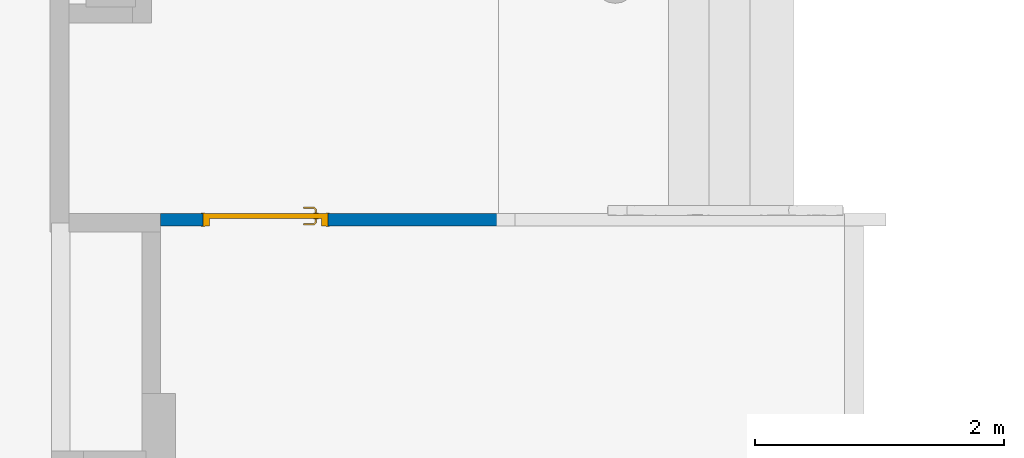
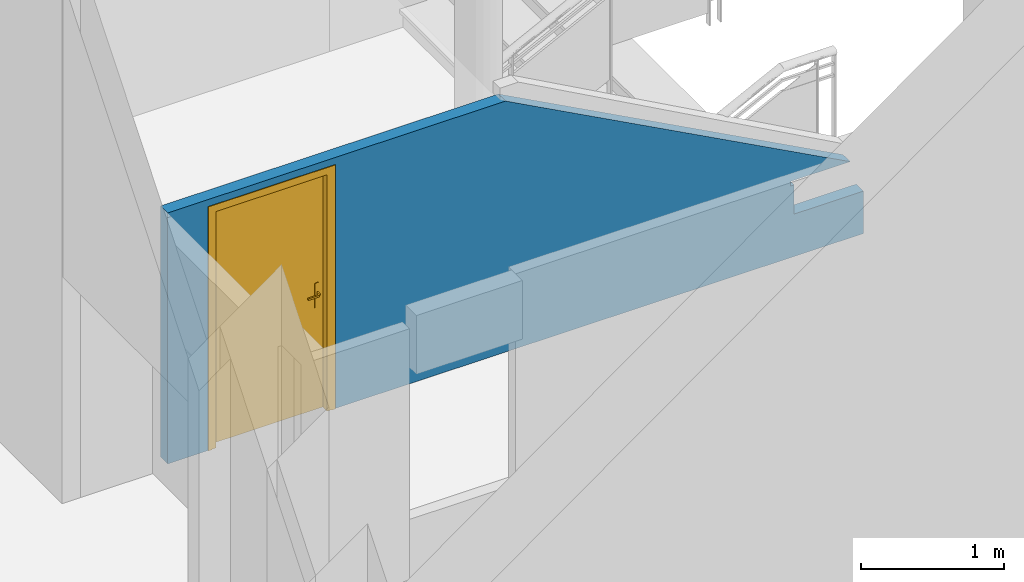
# One storey, part 10 of 39: 1 door, 1 wall, 1 opening.
"""IFC4 building model written with IfcOpenShell, lengths in metres."""

from ifc_helpers import new_model, entity, si_unit, converted_unit, derived_unit, direction, frame, origin, place, context, subcontext, project, spatial, indexed_curve, outline, extrude, polygons, source, transform, mapped, material, material_list, layer, layer_set, constituent, constituent_set, type_object, type_shapes, element, fill, save


model = new_model("IFC4")

# Units and contexts
model_context = context("Model", 3, precision=1e-05, world=origin(), true_north=direction((6.12303176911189e-17, 1.0)))
body_context = subcontext(model_context, "Body", "Model", "MODEL_VIEW")
ifc_project = project(units=[si_unit("LENGTHUNIT", "METRE"), si_unit("AREAUNIT", "SQUARE_METRE"), si_unit("VOLUMEUNIT", "CUBIC_METRE"), converted_unit("PLANEANGLEUNIT", "DEGREE", entity("IfcRatioMeasure", 0.0174532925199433), si_unit("PLANEANGLEUNIT", "RADIAN"), dimensions=[0, 0, 0, 0, 0, 0, 0]), si_unit("MASSUNIT", "GRAM", prefix="KILO"), derived_unit("MASSDENSITYUNIT", [(si_unit("MASSUNIT", "GRAM", prefix="KILO"), 1), (si_unit("LENGTHUNIT", "METRE"), -3)]), derived_unit("MOMENTOFINERTIAUNIT", [(si_unit("LENGTHUNIT", "METRE"), 4)]), si_unit("TIMEUNIT", "SECOND"), si_unit("FREQUENCYUNIT", "HERTZ"), si_unit("THERMODYNAMICTEMPERATUREUNIT", "DEGREE_CELSIUS"), derived_unit("THERMALTRANSMITTANCEUNIT", [(si_unit("MASSUNIT", "GRAM", prefix="KILO"), 1), (si_unit("THERMODYNAMICTEMPERATUREUNIT", "KELVIN"), -1), (si_unit("TIMEUNIT", "SECOND"), -3)]), derived_unit("VOLUMETRICFLOWRATEUNIT", [(si_unit("LENGTHUNIT", "METRE"), 3), (si_unit("TIMEUNIT", "SECOND"), -1)]), si_unit("ELECTRICCURRENTUNIT", "AMPERE"), si_unit("ELECTRICVOLTAGEUNIT", "VOLT"), si_unit("POWERUNIT", "WATT"), si_unit("FORCEUNIT", "NEWTON", prefix="KILO"), si_unit("ILLUMINANCEUNIT", "LUX"), si_unit("LUMINOUSFLUXUNIT", "LUMEN"), si_unit("LUMINOUSINTENSITYUNIT", "CANDELA"), derived_unit("USERDEFINED", [(si_unit("MASSUNIT", "GRAM", prefix="KILO"), -1), (si_unit("LENGTHUNIT", "METRE"), -2), (si_unit("TIMEUNIT", "SECOND"), 3), (si_unit("LUMINOUSFLUXUNIT", "LUMEN"), 1)]), derived_unit("LINEARVELOCITYUNIT", [(si_unit("LENGTHUNIT", "METRE"), 1), (si_unit("TIMEUNIT", "SECOND"), -1)]), si_unit("PRESSUREUNIT", "PASCAL"), derived_unit("USERDEFINED", [(si_unit("LENGTHUNIT", "METRE"), -2), (si_unit("MASSUNIT", "GRAM", prefix="KILO"), 1), (si_unit("TIMEUNIT", "SECOND"), -2)]), derived_unit("LINEARFORCEUNIT", [(si_unit("MASSUNIT", "GRAM", prefix="KILO"), 1), (si_unit("LENGTHUNIT", "METRE"), 1), (si_unit("TIMEUNIT", "SECOND"), -2), (si_unit("LENGTHUNIT", "METRE"), -1)]), derived_unit("PLANARFORCEUNIT", [(si_unit("MASSUNIT", "GRAM", prefix="KILO"), 1), (si_unit("LENGTHUNIT", "METRE"), 1), (si_unit("TIMEUNIT", "SECOND"), -2), (si_unit("LENGTHUNIT", "METRE"), -2)])], contexts=[model_context])

# Site, building, storey
site_placement = place(None, origin())
site = spatial("IfcSite", under=ifc_project, at=site_placement, Name="Default", CompositionType="ELEMENT")
building_placement = place(site_placement, origin())
building = spatial("IfcBuilding", under=site, at=building_placement, Name="HOTEL CONSULAIRE BOULOGNE SUR MER", CompositionType="ELEMENT")
storey_placement = place(building_placement, frame((0.0, 0.0, -5.02343668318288)))
storey = spatial("IfcBuildingStorey", under=building, at=storey_placement, Name="SS3", CompositionType="ELEMENT", Elevation=-5.02343668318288)

# Wall, opening, door
ifc_material_1 = material(Name="Mur par défaut", Category="Divers")
ifc_layer = layer(ifc_material_1, 0.1, Name="Mur par défaut", Category="Divers")
ifc_layer_set = layer_set([ifc_layer], Name="Mur de base:Générique - Int. 100 mm")
wall_type = type_object("IfcWallType", Name="Mur de base:Générique - Int. 100 mm", PredefinedType="NOTDEFINED", material=ifc_layer_set)
wall_placement = place(storey_placement, frame((-4.87627841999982, -25.9207560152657, 0.0)))
wall = element("IfcWall", 1, at=wall_placement, inside=storey, type_object=wall_type, material=ifc_layer_set, Name="Mur de base:Générique - Int. 100 mm", ObjectType="Mur de base:Générique - Int. 100 mm", PredefinedType="NOTDEFINED", context=body_context, shape_type="Tessellation", body=[
    polygons([(5.63699999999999, -0.049999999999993, 0.0), (5.48699999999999, -0.0499999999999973, 0.0), (1.341, -0.0499999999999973, 0.0), (1.341, 0.0500000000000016, 0.0), (5.63699999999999, 0.050000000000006, 0.0), (2.73781474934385, -0.0499999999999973, 2.14999999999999), (2.53744928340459e-16, -0.0499999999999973, 2.14999999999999), (2.53744928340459e-16, -0.0499999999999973, 0.0), (0.340999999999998, -0.049999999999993, 0.0), (0.340999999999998, -0.049999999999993, 2.075), (1.341, -0.0499999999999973, 2.075), (5.63699999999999, -0.049999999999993, 0.363405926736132), (5.48699999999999, -0.0499999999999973, 0.363405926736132), (5.075, -0.0499999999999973, 0.363405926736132), (5.075, -0.0499999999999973, 0.613405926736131), (5.045, -0.0499999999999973, 0.613405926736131), (5.045, -0.0499999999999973, 0.653405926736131), (5.48699999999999, -0.0499999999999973, 0.653405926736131), (5.52988705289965, -0.0499999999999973, 0.653405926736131), (4.79399417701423e-16, 0.0500000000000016, 2.14999999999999), (2.73781474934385, 0.0500000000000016, 2.14999999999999), (5.52988705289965, 0.0500000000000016, 0.653405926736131), (5.045, 0.0500000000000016, 0.653405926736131), (5.045, 0.0500000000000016, 0.613405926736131), (5.075, 0.0500000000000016, 0.613405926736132), (5.075, 0.0500000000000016, 0.363405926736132), (5.63699999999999, 0.050000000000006, 0.363405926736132), (1.341, 0.0500000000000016, 2.075), (0.340999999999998, 0.050000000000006, 2.075), (0.340999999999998, 0.050000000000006, 0.0), (1.56226654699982e-15, 0.0500000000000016, 0.0)], [[[2, 3, 4, 5, 1]], [[11, 10, 29, 28]], [[9, 8, 31, 30]], [[23, 22, 19, 18, 17]], [[10, 11, 3, 2, 1, 12, 13, 14, 15, 16, 17, 18, 19, 6, 7, 8, 9]], [[5, 4, 28, 29, 30, 31, 20, 21, 22, 23, 24, 25, 26, 27]], [[20, 31, 8, 7]], [[11, 28, 4, 3]], [[10, 9, 30, 29]], [[12, 1, 5, 27]], [[25, 15, 14, 26]], [[17, 16, 24, 23]], [[7, 6, 21, 20]], [[13, 12, 27, 26, 14]], [[16, 15, 25, 24]], [[6, 19, 22, 21]]], closed=True),
])
opening_placement = place(wall_placement, frame((0.340999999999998, -0.0500000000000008, 0.0)))
opening = element("IfcOpeningElement", 2, at=opening_placement, cuts=wall, Name="Int. Simple:PP0.93x2.04:1", ObjectType="Opening", PredefinedType="OPENING", context=body_context, shape_type="SweptSolid", body=[
    extrude(outline(indexed_curve([(0.0, 0.0), (2.075, 0.0), (2.075, 1.0), (0.0, 1.0), (0.0, 0.0)], self_intersect=False)), frame((0.0, 0.0, 0.0), z_axis=(0.0, 1.0, 0.0), x_axis=(0.0, 0.0, 1.0)), (0.0, 0.0, 1.0), 0.1),
])
ifc_material_2 = material(Name="Finition Peinture - Blanc satiné", Category="Peinture")
ifc_constituent_1 = constituent(ifc_material_2, Name="Finition Peinture - Blanc satiné", Category="Matériaux")
ifc_material_3 = material(Name="Bois - Panneau de porte", Category="Bois")
ifc_constituent_2 = constituent(ifc_material_3, Name="Bois - Panneau de porte", Category="Matériaux")
ifc_material_4 = material(Name="Bois - Cadre de porte", Category="Bois")
ifc_constituent_3 = constituent(ifc_material_4, Name="Bois - Cadre de porte", Category="Matériaux")
ifc_constituent_set = constituent_set(constituents=[ifc_constituent_1, ifc_constituent_2, ifc_constituent_3], Name="MaterialConstituentSet")
ifc_material_list = material_list([ifc_material_4, ifc_material_2, ifc_material_3, ifc_material_4])
door_type = type_object("IfcDoorType", Name="Int. Simple:PP0.93x2.04", OperationType="NOTDEFINED", PredefinedType="DOOR", material=ifc_material_list)
shared_shape = source(origin(), body_context, "Body", "Tessellation", [
    polygons([(0.075000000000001, -0.00500000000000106, 0.870000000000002), (0.0846472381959, -0.00500000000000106, 0.866003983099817), (0.0950000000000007, -0.00500000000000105, 0.86464101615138), (0.105352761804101, -0.00500000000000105, 0.866003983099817), (0.115, -0.00500000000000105, 0.870000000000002), (0.114999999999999, -0.00500000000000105, 1.08), (0.1053527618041, -0.00500000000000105, 1.08399601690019), (0.0949999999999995, -0.00500000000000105, 1.08535898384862), (0.0846472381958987, -0.00500000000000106, 1.08399601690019), (0.0749999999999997, -0.00500000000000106, 1.08), (0.0749999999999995, -1.06594733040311e-15, 0.870000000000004), (0.0749999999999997, -1.06594733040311e-15, 1.08), (0.0846472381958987, -1.06594733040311e-15, 1.08399601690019), (0.0949999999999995, -1.05748743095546e-15, 1.08535898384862), (0.1053527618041, -1.05748743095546e-15, 1.08399601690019), (0.114999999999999, -1.04902753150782e-15, 1.08), (0.115, -1.04902753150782e-15, 0.870000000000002), (0.105352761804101, -1.05748743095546e-15, 0.866003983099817), (0.0950000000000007, -1.05748743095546e-15, 0.86464101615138), (0.0846472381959, -1.06594733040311e-15, 0.866003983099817)], [[[4, 5, 6, 7, 8, 9, 10, 1, 2, 3]], [[15, 16, 17, 18, 19, 20, 11, 12, 13, 14]], [[11, 20, 2, 1]], [[2, 20, 19, 3]], [[19, 18, 4, 3]], [[18, 17, 5, 4]], [[6, 5, 17, 16]], [[16, 15, 7, 6]], [[7, 15, 14, 8]], [[14, 13, 9, 8]], [[13, 12, 10, 9]], [[1, 10, 12, 11]]], closed=True),
    polygons([(0.114999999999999, 0.0399999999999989, 1.08), (0.1053527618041, 0.0399999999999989, 1.08399601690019), (0.0949999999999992, 0.0399999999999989, 1.08535898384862), (0.0846472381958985, 0.0399999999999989, 1.08399601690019), (0.0749999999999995, 0.0399999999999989, 1.08), (0.075000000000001, 0.0399999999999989, 0.870000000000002), (0.0846472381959, 0.0399999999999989, 0.866003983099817), (0.0950000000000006, 0.0399999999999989, 0.86464101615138), (0.105352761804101, 0.0399999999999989, 0.866003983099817), (0.115, 0.0399999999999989, 0.870000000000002), (0.114999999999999, 0.0449999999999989, 1.08), (0.115, 0.0449999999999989, 0.870000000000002), (0.105352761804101, 0.0449999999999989, 0.866003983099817), (0.0950000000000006, 0.0449999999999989, 0.86464101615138), (0.0846472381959, 0.0449999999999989, 0.866003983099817), (0.0749999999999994, 0.0449999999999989, 0.870000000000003), (0.0749999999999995, 0.0449999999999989, 1.08), (0.0846472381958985, 0.0449999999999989, 1.08399601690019), (0.0949999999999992, 0.0449999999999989, 1.08535898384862), (0.1053527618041, 0.0449999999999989, 1.08399601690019)], [[[9, 10, 1, 2, 3, 4, 5, 6, 7, 8]], [[20, 11, 12, 13, 14, 15, 16, 17, 18, 19]], [[11, 20, 2, 1]], [[2, 20, 19, 3]], [[19, 18, 4, 3]], [[18, 17, 5, 4]], [[6, 5, 17, 16]], [[16, 15, 7, 6]], [[7, 15, 14, 8]], [[14, 13, 9, 8]], [[13, 12, 10, 9]], [[1, 10, 12, 11]]], closed=True),
    polygons([(0.0889999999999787, -0.00500000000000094, 1.007), (0.0929747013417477, -0.00500000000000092, 1.00778044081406), (0.097025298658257, -0.0050000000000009, 1.00778044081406), (0.101000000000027, -0.00500000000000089, 1.00699999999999), (0.101000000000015, -0.00500000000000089, 0.993000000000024), (0.0970252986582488, -0.0050000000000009, 0.992219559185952), (0.0929747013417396, -0.00500000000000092, 0.99221955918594), (0.0889999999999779, -0.00500000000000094, 0.992999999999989), (0.0889999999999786, -0.0326509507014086, 1.007), (0.0929747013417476, -0.0310045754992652, 1.00778044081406), (0.0970252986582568, -0.0293267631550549, 1.00778044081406), (0.101000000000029, -0.0276803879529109, 1.007), (0.101000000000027, -0.0276803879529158, 0.993000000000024), (0.0970252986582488, -0.0293267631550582, 0.992219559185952), (0.0929747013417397, -0.0310045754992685, 0.99221955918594), (0.0889999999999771, -0.0326509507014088, 0.992999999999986), (0.107377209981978, -0.0510281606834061, 1.007), (0.109023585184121, -0.0470534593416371, 1.00778044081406), (0.110701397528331, -0.0430028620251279, 1.00778044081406), (0.112347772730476, -0.0390281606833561, 1.007), (0.112347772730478, -0.0390281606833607, 0.993000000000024), (0.110701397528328, -0.0430028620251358, 0.992219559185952), (0.109023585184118, -0.0470534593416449, 0.99221955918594), (0.107377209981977, -0.0510281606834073, 0.992999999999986), (0.195018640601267, -0.0510281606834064, 1.00699999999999), (0.195018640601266, -0.051028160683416, 0.992999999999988), (0.195018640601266, -0.0470534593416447, 0.99221955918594), (0.195018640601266, -0.0430028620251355, 0.992219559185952), (0.195018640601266, -0.0390281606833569, 0.993000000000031), (0.195018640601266, -0.0390281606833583, 1.007), (0.195018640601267, -0.0430028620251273, 1.00778044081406), (0.195018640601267, -0.0470534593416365, 1.00778044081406), (0.147307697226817, -0.0510281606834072, 1.007), (0.152860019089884, -0.045028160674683, 1.0078786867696), (0.15368320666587, -0.039028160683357, 1.007), (0.147307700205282, -0.0510281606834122, 0.992999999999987), (0.152860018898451, -0.0450281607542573, 0.992121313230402), (0.153683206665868, -0.0390281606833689, 0.993000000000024)], [[[2, 3, 4, 5, 6, 7, 8, 1]], [[21, 20, 35, 30, 29, 38]], [[9, 10, 2, 1]], [[10, 18, 19, 11, 3, 2]], [[11, 12, 4, 3]], [[5, 4, 12, 13]], [[26, 27, 28, 29, 30, 31, 32, 25]], [[13, 14, 6, 5]], [[14, 22, 23, 15, 7, 6]], [[15, 16, 8, 7]], [[1, 8, 16, 9]], [[17, 18, 10, 9]], [[19, 20, 12, 11]], [[13, 12, 20, 21]], [[21, 22, 14, 13]], [[23, 24, 16, 15]], [[9, 16, 24, 17]], [[33, 32, 34]], [[25, 32, 33]], [[18, 17, 33]], [[34, 35, 19]], [[20, 19, 35]], [[35, 31, 30]], [[32, 31, 34]], [[31, 35, 34]], [[18, 33, 34]], [[18, 34, 19]], [[38, 28, 37]], [[36, 37, 27]], [[21, 38, 22]], [[38, 29, 28]], [[26, 36, 27]], [[24, 23, 36]], [[36, 23, 37]], [[23, 22, 37]], [[22, 38, 37]], [[27, 37, 28]], [[17, 24, 36, 26, 25, 33]]], closed=True),
    polygons([(0.10100000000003, 0.0449999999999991, 0.993000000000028), (0.101000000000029, 0.0449999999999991, 1.007), (0.0970252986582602, 0.0449999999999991, 1.00778044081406), (0.092974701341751, 0.0449999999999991, 1.00778044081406), (0.0889999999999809, 0.044999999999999, 1.007), (0.0889999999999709, 0.044999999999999, 0.992999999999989), (0.0929747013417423, 0.0449999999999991, 0.99221955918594), (0.0970252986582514, 0.0449999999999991, 0.992219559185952), (0.10100000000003, 0.067485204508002, 0.993000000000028), (0.10100000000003, 0.0674852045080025, 1.007), (0.0970252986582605, 0.0691315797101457, 1.00778044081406), (0.0929747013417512, 0.070809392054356, 1.00778044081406), (0.088999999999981, 0.0724557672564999, 1.007), (0.0889999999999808, 0.072455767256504, 0.992999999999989), (0.092974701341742, 0.0708093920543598, 0.99221955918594), (0.0970252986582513, 0.0691315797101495, 0.992219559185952), (0.112485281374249, 0.0789704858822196, 0.993000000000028), (0.112485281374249, 0.0789704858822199, 1.007), (0.110838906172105, 0.0829451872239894, 1.00778044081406), (0.109161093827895, 0.0869957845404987, 1.00778044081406), (0.107514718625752, 0.0909704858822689, 1.007), (0.107514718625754, 0.090970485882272, 0.992999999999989), (0.109161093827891, 0.0869957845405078, 0.99221955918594), (0.110838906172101, 0.0829451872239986, 0.992219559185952), (0.195045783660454, 0.0789704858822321, 0.993000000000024), (0.195045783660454, 0.0829451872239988, 0.992219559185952), (0.195045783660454, 0.086995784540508, 0.99221955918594), (0.195045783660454, 0.0909704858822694, 0.992999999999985), (0.195045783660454, 0.0909704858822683, 1.007), (0.195045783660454, 0.0869957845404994, 1.00778044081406), (0.195045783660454, 0.0829451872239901, 1.00778044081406), (0.195045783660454, 0.0789704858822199, 1.007), (0.147445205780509, 0.0909704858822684, 1.007), (0.152942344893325, 0.0849704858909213, 1.0078786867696), (0.153765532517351, 0.0789704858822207, 1.007), (0.147445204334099, 0.0909704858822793, 0.992999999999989), (0.152942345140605, 0.0849704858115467, 0.992121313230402), (0.153765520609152, 0.0789704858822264, 0.993000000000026)], [[[4, 5, 6, 7, 8, 1, 2, 3]], [[18, 17, 38, 25, 32, 35]], [[2, 1, 9, 10]], [[25, 26, 27, 28, 29, 30, 31, 32]], [[10, 11, 3, 2]], [[11, 19, 20, 12, 4, 3]], [[12, 13, 5, 4]], [[6, 5, 13, 14]], [[14, 15, 7, 6]], [[15, 23, 24, 16, 8, 7]], [[16, 9, 1, 8]], [[10, 9, 17, 18]], [[18, 19, 11, 10]], [[20, 21, 13, 12]], [[14, 13, 21, 22]], [[22, 23, 15, 14]], [[24, 17, 9, 16]], [[35, 31, 34]], [[33, 34, 30]], [[18, 35, 19]], [[35, 32, 31]], [[29, 33, 30]], [[21, 20, 33]], [[33, 20, 34]], [[20, 19, 34]], [[19, 35, 34]], [[30, 34, 31]], [[21, 33, 29, 28, 36, 22]], [[36, 27, 37]], [[28, 27, 36]], [[23, 22, 36]], [[37, 38, 24]], [[17, 24, 38]], [[38, 26, 25]], [[27, 26, 37]], [[26, 38, 37]], [[23, 36, 37]], [[23, 37, 24]]], closed=True),
    polygons([(0.0349999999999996, 0.04, 2.04), (0.965, 0.04, 2.04), (0.965, 0.04, 0.0), (0.0349999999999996, 0.04, 0.0), (0.0349999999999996, 3.38395977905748e-17, 2.04), (0.0349999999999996, 3.38395977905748e-17, 0.0), (0.965, 3.38395977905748e-17, 0.0), (0.965, 3.38395977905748e-17, 2.04)], [[[4, 1, 2, 3]], [[7, 8, 5, 6]], [[2, 1, 5, 8]], [[3, 2, 8, 7]], [[4, 3, 7, 6]], [[1, 4, 6, 5]]], closed=True),
    polygons([(-1.53631773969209e-14, 0.0, 0.0), (-1.53631773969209e-14, 0.100000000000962, 0.0), (0.0499999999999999, 0.100000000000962, 0.0), (0.0499999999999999, 0.040000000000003, 0.0), (0.0349999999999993, 0.040000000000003, 0.0), (0.0349999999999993, 0.0, 0.0), (-1.51601398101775e-14, 0.0, 2.07500000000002), (-1.51601398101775e-14, 0.100000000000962, 2.07500000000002), (1.00000000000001, 0.100000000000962, 2.07500000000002), (1.00000000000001, 0.100000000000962, 3.88816484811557e-25), (0.95, 0.100000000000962, 3.59657255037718e-24), (0.95, 0.100000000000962, 2.025), (0.05, 0.100000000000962, 2.025), (0.05, 0.040000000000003, 2.025), (0.95, 0.040000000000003, 2.025), (0.95, 0.040000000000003, 2.24110802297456e-24), (0.965, 0.040000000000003, -4.78103047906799e-25), (0.965, 0.040000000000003, 2.04), (0.0349999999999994, 0.040000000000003, 2.04), (0.0349999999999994, 0.0, 2.04), (0.965, 0.0, 2.04), (0.965, 0.0, -2.84752548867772e-24), (1.00000000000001, 0.0, -3.95490158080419e-25), (1.00000000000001, 0.0, 2.07500000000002)], [[[5, 6, 1, 2, 3, 4]], [[11, 10, 23, 22, 17, 16]], [[14, 13, 12, 15]], [[20, 19, 18, 21]], [[2, 1, 7, 8]], [[15, 12, 11, 16]], [[21, 18, 17, 22]], [[3, 2, 8, 9, 10, 11, 12, 13]], [[4, 3, 13, 14]], [[6, 5, 19, 20]], [[9, 24, 23, 10]], [[16, 17, 18, 19, 5, 4, 14, 15]], [[22, 23, 24, 7, 1, 6, 20, 21]], [[8, 7, 24, 9]]], closed=True),
    polygons([(0.0149999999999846, 0.100000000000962, 0.0), (-0.0150000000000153, 0.100000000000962, 0.0), (-0.0150000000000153, 0.105000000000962, 0.0), (0.0149999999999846, 0.105000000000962, 0.0), (0.0149999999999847, 0.100000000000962, 2.06000000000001), (0.98499999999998, 0.100000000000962, 2.06000000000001), (0.98499999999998, 0.100000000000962, -1.80158911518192e-24), (1.01499999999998, 0.100000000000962, -9.00794238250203e-25), (1.01499999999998, 0.100000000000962, 2.09000000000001), (-0.0150000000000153, 0.100000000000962, 2.09000000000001), (-0.0150000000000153, 0.105000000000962, 2.09000000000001), (1.01499999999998, 0.105000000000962, 2.09000000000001), (1.01499999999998, 0.105000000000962, -5.48159974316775e-24), (0.98499999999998, 0.105000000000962, -4.34281663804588e-24), (0.98499999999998, 0.105000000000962, 2.06000000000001), (0.0149999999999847, 0.105000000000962, 2.06000000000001)], [[[1, 2, 3, 4]], [[14, 13, 8, 7]], [[5, 16, 15, 6]], [[7, 8, 9, 10, 2, 1, 5, 6]], [[3, 2, 10, 11]], [[6, 15, 14, 7]], [[4, 3, 11, 12, 13, 14, 15, 16]], [[1, 4, 16, 5]], [[12, 9, 8, 13]], [[11, 10, 9, 12]]], closed=True),
    polygons([(0.98499999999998, -0.005, 5.41433564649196e-16), (0.98499999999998, 0.0, 5.41433564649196e-16), (1.01499999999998, 0.0, 5.41433564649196e-16), (1.01499999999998, -0.005, 5.41433564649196e-16), (0.0149999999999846, -0.005, 0.0), (-0.0150000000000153, -0.005, 0.0), (-0.0150000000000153, 0.0, 0.0), (0.0149999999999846, 0.0, 0.0), (0.0149999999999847, -0.005, 2.06000000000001), (0.98499999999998, -0.005, 2.06000000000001), (1.01499999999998, -0.005, 2.09000000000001), (-0.0150000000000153, -0.005, 2.09000000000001), (-0.0150000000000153, 0.0, 2.09000000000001), (1.01499999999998, 0.0, 2.09000000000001), (0.98499999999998, 0.0, 2.06000000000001), (0.0149999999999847, 0.0, 2.06000000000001)], [[[2, 3, 4, 1]], [[6, 7, 8, 5]], [[9, 16, 15, 10]], [[1, 4, 11, 12, 6, 5, 9, 10]], [[7, 6, 12, 13]], [[10, 15, 2, 1]], [[8, 7, 13, 14, 3, 2, 15, 16]], [[5, 8, 16, 9]], [[14, 11, 4, 3]], [[13, 12, 11, 14]]], closed=True),
])
type_shapes(door_type, [shared_shape])
door_placement = place(opening_placement, frame((1.0, 0.0999999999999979, 0.0), z_axis=(0.0, 0.0, 1.0), x_axis=(-1.0, 0.0, 0.0)))
door = element("IfcDoor", 3, at=door_placement, inside=storey, type_object=door_type, material=ifc_constituent_set, Name="Int. Simple:PP0.93x2.04", ObjectType="Int. Simple:PP0.93x2.04", OperationType="NOTDEFINED", OverallHeight=2.075, OverallWidth=1.0, PredefinedType="DOOR", context=body_context, shape_type="MappedRepresentation", body=[
    mapped(shared_shape, transform((0.0, 0.0, 0.0), scale=1.0)),
])
fill(opening, door)

save(model, "model.ifc")
